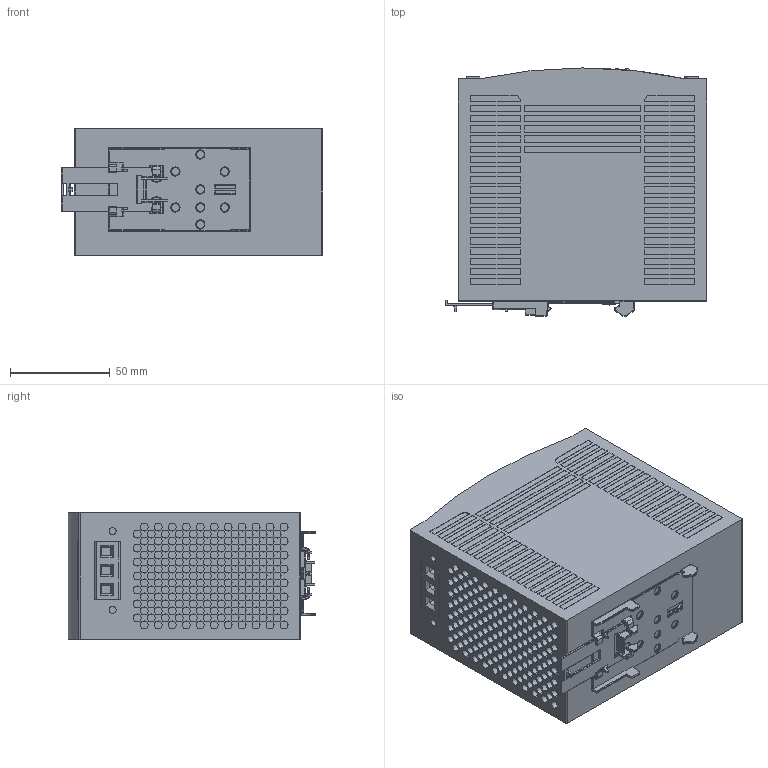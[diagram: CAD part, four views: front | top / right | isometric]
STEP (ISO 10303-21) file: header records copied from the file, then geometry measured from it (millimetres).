
FILE_DESCRIPTION (( 'STEP AP214' ), '1' );
FILE_NAME ('DSL240 STEP.STEP', '2014-08-26T18:21:38', ( '' ), ( '' ), 'SwSTEP 2.0', 'SolidWorks 2014', '' );
FILE_SCHEMA (( 'AUTOMOTIVE_DESIGN' ));
Length unit declared in the file: inch
Products named in the file (1): DSL240 STEP
Bounding box: 131 x 124.1 x 63.2 mm (x, y, z)
Surface area: 88264 mm2 (no closed solid volume)
Topology: 0 solids, 1 shells, 2441 faces, 5707 edges, 3673 vertices
Faces by surface type: plane 1226, cylinder 1038, bspline 165, torus 12
Entity records: 99968 total; most frequent: CARTESIAN_POINT 20559, DIRECTION 11751, ORIENTED_EDGE 11306, EDGE_CURVE 5689, AXIS2_PLACEMENT_3D 4252, VERTEX_POINT 3674, VECTOR 3247, LINE 3247
